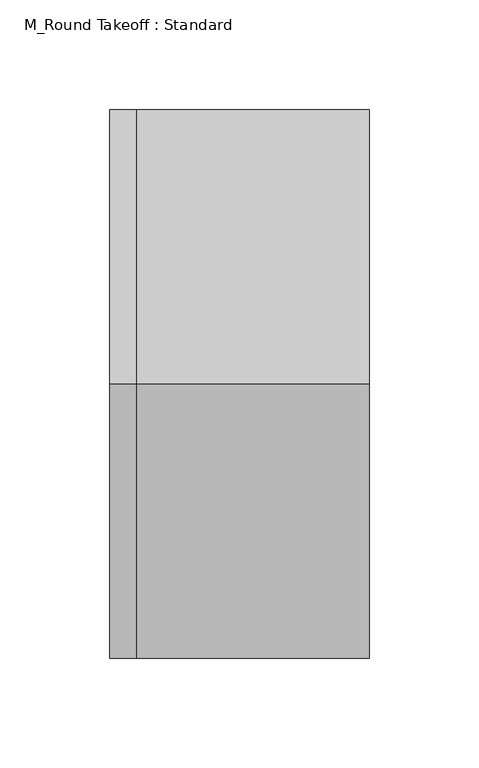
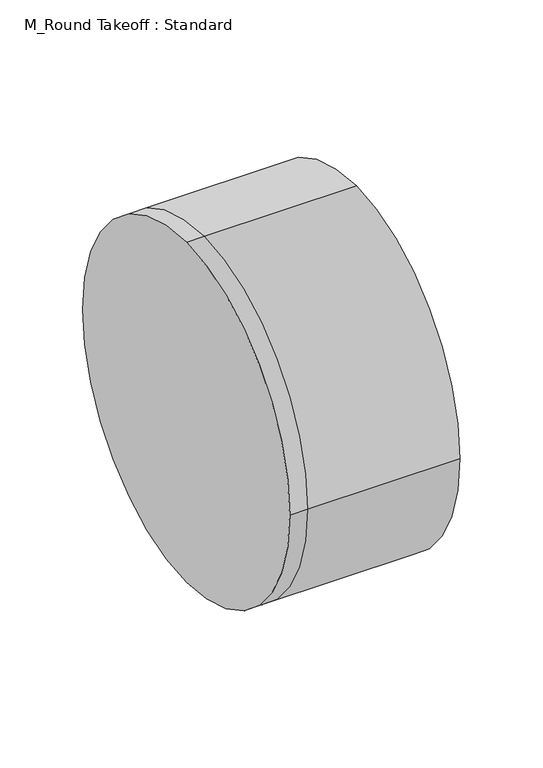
"""IFC4 building model written with IfcOpenShell, lengths in millimetres: duct fitting geometry, M_Round Takeoff : Standard."""

import ifcopenshell
import ifcopenshell.guid

model = None  # the IFC model being written
_history = None  # IfcOwnerHistory: only IFC2X3 demands one
_inside = {}  # id of a spatial element -> (the spatial element, [elements in it])
_under = {}  # id of a project, library or spatial element -> (it, [spatial elements below it])
_declared = {}  # id of a project -> (the project, [libraries it declares])
_typed = {}  # id of a type object -> (the type object, [elements of that type])
_made_of = {}  # id of a material, layer set ... -> (it, [elements and type objects made of it])


def new_model(schema):
    """Start an empty IFC model of exactly this schema.

    Asked for "IFC4X3", IfcOpenShell would pick the latest addendum, in which some entities
    have other attributes; the version numbers below select the first issue.
    IFC2X3 requires an IfcOwnerHistory on every rooted entity: one is made here for all.
    """
    global model, _history
    if schema == "IFC4X3":
        model = ifcopenshell.file(schema_version=(4, 3, 0, 0))
    else:
        model = ifcopenshell.file(schema=schema)
    _inside.clear()
    _under.clear()
    _declared.clear()
    _typed.clear()
    _made_of.clear()
    _history = None
    if model.schema == "IFC2X3":
        org = make("IfcOrganization", Name="unknown")
        user = make(
            "IfcPersonAndOrganization",
            ThePerson=make("IfcPerson", FamilyName="unknown"),
            TheOrganization=org,
        )
        app = make(
            "IfcApplication",
            ApplicationDeveloper=org,
            Version="unknown",
            ApplicationFullName="unknown",
            ApplicationIdentifier="unknown",
        )
        _history = make(
            "IfcOwnerHistory",
            OwningUser=user,
            OwningApplication=app,
            ChangeAction="ADDED",
            CreationDate=0,
        )
    return model


def make(cls, **values):
    """One entity of the class cls with the attributes given. An attribute that is None is left unset."""
    return model.create_entity(
        cls, **{name: value for name, value in values.items() if value is not None}
    )


def rooted(cls, **values):
    """An entity with a GlobalId (a new one), such as an element, a storey or a relation."""
    return make(cls, GlobalId=ifcopenshell.guid.new(), OwnerHistory=_history, **values)


def si_unit(unit_type, name, prefix=None):
    """IfcSIUnit, for example si_unit("LENGTHUNIT", "METRE", prefix="MILLI")."""
    return make("IfcSIUnit", UnitType=unit_type, Prefix=prefix, Name=name)


def assignment(units):
    """IfcUnitAssignment: the units of a project."""
    return None if units is None else make("IfcUnitAssignment", Units=units)


def point(xyz):
    """IfcCartesianPoint."""
    return None if xyz is None else make("IfcCartesianPoint", Coordinates=xyz)


def direction(xyz):
    """IfcDirection."""
    return None if xyz is None else make("IfcDirection", DirectionRatios=xyz)


def frame(location, z_axis=None, x_axis=None):
    """IfcAxis2Placement3D, a coordinate frame: its origin and axes. An axis left out is left unset."""
    return make(
        "IfcAxis2Placement3D",
        Location=point(location),
        Axis=direction(z_axis),
        RefDirection=direction(x_axis),
    )


def origin():
    """The frame at (0, 0, 0) with its axes left unset."""
    return frame((0.0, 0.0, 0.0))


def place(relative_to, where):
    """IfcLocalPlacement: puts the frame where relative to a parent placement (None: the world)."""
    return make(
        "IfcLocalPlacement", PlacementRelTo=relative_to, RelativePlacement=where
    )


def context(
    kind, dimensions, precision=None, world=None, true_north=None, identifier=None
):
    """IfcGeometricRepresentationContext, for example the 3D "Model" context."""
    return make(
        "IfcGeometricRepresentationContext",
        ContextIdentifier=identifier,
        ContextType=kind,
        CoordinateSpaceDimension=dimensions,
        Precision=precision,
        WorldCoordinateSystem=world,
        TrueNorth=true_north,
    )


def project(units=None, contexts=None):
    """IfcProject with its units and contexts."""
    return rooted(
        "IfcProject",
        Name="project",
        RepresentationContexts=contexts,
        UnitsInContext=assignment(units),
    )


def spatial(cls, under=None, at=None, **own):
    """A site, building, storey or space (cls), placed at a placement, below another one or the project."""
    s = rooted(cls, ObjectPlacement=at, **own)
    if under is not None:
        _under.setdefault(under.id(), (under, []))[1].append(s)
    return s


def circle_curve(where, radius):
    """IfcCircle in the frame where."""
    return make("IfcCircle", Position=where, Radius=radius)


def shape(context_of_items, identifier, shape_type, items):
    """IfcShapeRepresentation: the items that make up one representation, for example the "Body"."""
    return make(
        "IfcShapeRepresentation",
        ContextOfItems=context_of_items,
        RepresentationIdentifier=identifier,
        RepresentationType=shape_type,
        Items=items,
    )


def source(mapping_origin, context_of_items, identifier, shape_type, items):
    """IfcRepresentationMap: a shape defined once, which mapped items show again and again."""
    return make(
        "IfcRepresentationMap",
        MappingOrigin=mapping_origin,
        MappedRepresentation=shape(context_of_items, identifier, shape_type, items),
    )


def transform(
    local_origin,
    x_axis=None,
    y_axis=None,
    z_axis=None,
    scale=None,
    scale2=None,
    scale3=None,
    uniform=True,
):
    """IfcCartesianTransformationOperator3D, or its non-uniform kind. x_axis, y_axis, z_axis: its Axis1, 2, 3."""
    if uniform:
        return make(
            "IfcCartesianTransformationOperator3D",
            Axis1=direction(x_axis),
            Axis2=direction(y_axis),
            LocalOrigin=point(local_origin),
            Scale=scale,
            Axis3=direction(z_axis),
        )
    return make(
        "IfcCartesianTransformationOperator3DnonUniform",
        Axis1=direction(x_axis),
        Axis2=direction(y_axis),
        LocalOrigin=point(local_origin),
        Scale=scale,
        Axis3=direction(z_axis),
        Scale2=scale2,
        Scale3=scale3,
    )


def mapped(mapping_source, mapping_target):
    """IfcMappedItem: shows the shape of a source again, moved by a transform."""
    return make(
        "IfcMappedItem", MappingSource=mapping_source, MappingTarget=mapping_target
    )


def made_of(thing, what):
    """Note that an element or type object is made of a material, layer set ...; save() writes the relation."""
    if what is not None:
        _made_of.setdefault(what.id(), (what, []))[1].append(thing)
    return thing


def element(
    cls,
    number,
    at=None,
    inside=None,
    cuts=None,
    type_object=None,
    material=None,
    context=None,
    identifier="Body",
    shape_type=None,
    held_by="IfcProductDefinitionShape",
    body=None,
    shapes=None,
    **own,
):
    """One element of the class cls, such as IfcWall. Its Tag is "e" and its number.

    at: its placement. inside: the storey or other place that contains it. cuts: it is an
    opening in that element (IfcRelVoidsElement). A single representation is given by context,
    identifier, shape_type and body (its items); several are given by shapes. held_by: the class
    of the entity that holds the representations. save() writes the other relations.
    """
    e = rooted(cls, Tag="e%d" % number, ObjectPlacement=at, **own)
    if body is not None:
        shapes = [shape(context, identifier, shape_type, body)]
    if shapes is not None:
        e.Representation = make(held_by, Representations=shapes)
    if inside is not None:
        _inside.setdefault(inside.id(), (inside, []))[1].append(e)
    if cuts is not None:
        rooted(
            "IfcRelVoidsElement", RelatingBuildingElement=cuts, RelatedOpeningElement=e
        )
    if type_object is not None:
        _typed.setdefault(type_object.id(), (type_object, []))[1].append(e)
    return made_of(e, material)


def aggregate(whole, parts):
    """IfcRelAggregates: a whole, such as a stair, and the parts it consists of."""
    return rooted("IfcRelAggregates", RelatingObject=whole, RelatedObjects=parts)


def save(model, path):
    """Write the relations noted so far, then the file.

    IfcRelAggregates (storeys below a building ...), IfcRelContainedInSpatialStructure (elements
    in a storey), IfcRelDefinesByType, IfcRelAssociatesMaterial and IfcRelDeclares: one each for
    every whole, place, type object, material and project.
    """
    for whole, parts in _under.values():
        aggregate(whole, parts)
    for where, things in _inside.values():
        rooted(
            "IfcRelContainedInSpatialStructure",
            RelatedElements=things,
            RelatingStructure=where,
        )
    for kind, things in _typed.values():
        rooted("IfcRelDefinesByType", RelatedObjects=things, RelatingType=kind)
    for what, things in _made_of.values():
        rooted("IfcRelAssociatesMaterial", RelatedObjects=things, RelatingMaterial=what)
    for by, libraries in _declared.values():
        rooted("IfcRelDeclares", RelatingContext=by, RelatedDefinitions=libraries)
    model.write(path)


def plane_surface(at):
    """IfcPlane: the flat surface through the origin of the frame at, square to its z axis."""
    return make("IfcPlane", Position=at)


def cylinder_surface(at, radius):
    """IfcCylindricalSurface: all points at the distance radius from the z axis of the frame at."""
    return make("IfcCylindricalSurface", Position=at, Radius=radius)


def advanced_brep(points, edges, surfaces, faces):
    """IfcAdvancedBrep: a solid bounded by faces that lie on surfaces and meet in shared edges.

    An edge is (start, end): straight between two places in points (the first is 0);
    or (start, end, curve); or (start, end, curve, False) where it runs against its curve.
    A face is (place in surfaces, loops), or (place, loops, False) where it looks against
    its surface's normal. A loop lists edges by number (the first is 1), with a minus sign
    where the edge is run from its end to its start. The first loop is the outer one.
    """
    corners = [point(p) for p in points]
    vertices = [make("IfcVertexPoint", VertexGeometry=c) for c in corners]
    made = []
    for start, end, *more in edges:
        made.append(
            make(
                "IfcEdgeCurve",
                EdgeStart=vertices[start],
                EdgeEnd=vertices[end],
                EdgeGeometry=more[0] if more else make("IfcPolyline", Points=[corners[start], corners[end]]),
                SameSense=more[1] if len(more) > 1 else True,
            )
        )
    hull = []
    for where, loops, *sense in faces:
        bounds = []
        for j, loop in enumerate(loops):
            ring = [make("IfcOrientedEdge", EdgeElement=made[abs(k) - 1], Orientation=k > 0) for k in loop]
            bounds.append(
                make(
                    "IfcFaceOuterBound" if j == 0 else "IfcFaceBound",
                    Bound=make("IfcEdgeLoop", EdgeList=ring),
                    Orientation=True,
                )
            )
        hull.append(make("IfcAdvancedFace", Bounds=bounds, FaceSurface=surfaces[where], SameSense=sense[0] if sense else True))
    return make("IfcAdvancedBrep", Outer=make("IfcClosedShell", CfsFaces=hull))


def m_round_takeoff_standard_24c67b50(model_context):
    return source(origin(), model_context, "Body", "AdvancedBrep", [
        advanced_brep(
        [(-12.1645431, 0.0, 125.0), (-12.1645431, 125.0, 0.0), (-12.1645431, 0.0, -125.0), (-12.1645431, -125.0, 0.0), (0.0, 0.0, 125.0), (0.0, 125.0, 0.0), (0.0, 0.0, -125.0), (0.0, -125.0, 0.0), (106.0685431, 0.0, 125.0), (106.0685431, -125.0, 0.0), (106.0685431, 0.0, -125.0), (106.0685431, 125.0, 0.0)],
        [
            (0, 1, circle_curve(frame((-12.1645431, 0.0, 0.0), z_axis=(-1.0, 0.0, 0.0), x_axis=(0.0, 1.0, 0.0)), 125.0)),
            (1, 2, circle_curve(frame((-12.1645431, 0.0, 0.0), z_axis=(-1.0, 0.0, 0.0), x_axis=(0.0, 1.0, 0.0)), 125.0)),
            (2, 3, circle_curve(frame((-12.1645431, 0.0, 0.0), z_axis=(-1.0, 0.0, 0.0), x_axis=(0.0, 1.0, 0.0)), 125.0)),
            (3, 0, circle_curve(frame((-12.1645431, 0.0, 0.0), z_axis=(-1.0, 0.0, 0.0), x_axis=(0.0, 1.0, 0.0)), 125.0)),
            (0, 4),
            (4, 5, circle_curve(frame((0.0, 0.0, 0.0), z_axis=(-1.0, 0.0, 0.0), x_axis=(0.0, 1.0, 0.0)), 125.0)),
            (5, 1),
            (5, 6, circle_curve(frame((0.0, 0.0, 0.0), z_axis=(-1.0, 0.0, 0.0), x_axis=(0.0, 1.0, 0.0)), 125.0)),
            (6, 2),
            (6, 7, circle_curve(frame((0.0, 0.0, 0.0), z_axis=(-1.0, 0.0, 0.0), x_axis=(0.0, 1.0, 0.0)), 125.0)),
            (7, 3),
            (7, 4, circle_curve(frame((0.0, 0.0, 0.0), z_axis=(-1.0, 0.0, 0.0), x_axis=(0.0, 1.0, 0.0)), 125.0)),
            (8, 9, circle_curve(frame((106.0685431, 0.0, 0.0), z_axis=(1.0, 0.0, 0.0), x_axis=(0.0, 1.0, 0.0)), 125.0)),
            (9, 10, circle_curve(frame((106.0685431, 0.0, 0.0), z_axis=(1.0, 0.0, 0.0), x_axis=(0.0, 1.0, 0.0)), 125.0)),
            (10, 11, circle_curve(frame((106.0685431, 0.0, 0.0), z_axis=(1.0, 0.0, 0.0), x_axis=(0.0, 1.0, 0.0)), 125.0)),
            (11, 8, circle_curve(frame((106.0685431, 0.0, 0.0), z_axis=(1.0, 0.0, 0.0), x_axis=(0.0, 1.0, 0.0)), 125.0)),
            (11, 5),
            (4, 8),
            (10, 6),
            (9, 7),
        ],
        [
            plane_surface(frame((-12.1645431, 0.0, 0.0), z_axis=(-1.0, 0.0, 0.0), x_axis=(0.0, 0.0, 1.0))),
            cylinder_surface(frame((-12.1645431, 0.0, 0.0), z_axis=(-1.0, 0.0, 0.0), x_axis=(0.0, 1.0, 0.0)), 125.0),
            plane_surface(frame((106.0685431, 0.0, 0.0), z_axis=(1.0, 0.0, 0.0), x_axis=(0.0, 0.0, 1.0))),
            cylinder_surface(frame((0.0, 0.0, 0.0), z_axis=(-1.0, 0.0, 0.0), x_axis=(0.0, 1.0, 0.0)), 125.0),
        ],
        [
            (0, [[1, 2, 3, 4]]),
            (1, [[-1, 5, 6, 7]]),
            (1, [[-2, -7, 8, 9]]),
            (1, [[-3, -9, 10, 11]]),
            (1, [[-4, -11, 12, -5]]),
            (2, [[13, 14, 15, 16]]),
            (3, [[-16, 17, -6, 18]]),
            (3, [[-15, 19, -8, -17]]),
            (3, [[-14, 20, -10, -19]]),
            (3, [[-13, -18, -12, -20]]),
        ],
    ),
        advanced_brep(
        [(106.0685431, 0.0, 125.0), (106.0685431, -125.0, 0.0), (106.0685431, 0.0, -125.0), (106.0685431, 125.0, 0.0), (0.0, 125.0, 0.0), (0.0, 0.0, 125.0), (0.0, 0.0, -125.0), (0.0, -125.0, 0.0), (-12.1645431, 0.0, 125.0), (-12.1645431, 125.0, 0.0), (-12.1645431, 0.0, -125.0), (-12.1645431, -125.0, 0.0)],
        [
            (0, 1, circle_curve(frame((106.0685431, 0.0, 0.0), z_axis=(1.0, 0.0, 0.0), x_axis=(0.0, 1.0, 0.0)), 125.0)),
            (1, 2, circle_curve(frame((106.0685431, 0.0, 0.0), z_axis=(1.0, 0.0, 0.0), x_axis=(0.0, 1.0, 0.0)), 125.0)),
            (2, 3, circle_curve(frame((106.0685431, 0.0, 0.0), z_axis=(1.0, 0.0, 0.0), x_axis=(0.0, 1.0, 0.0)), 125.0)),
            (3, 0, circle_curve(frame((106.0685431, 0.0, 0.0), z_axis=(1.0, 0.0, 0.0), x_axis=(0.0, 1.0, 0.0)), 125.0)),
            (3, 4),
            (4, 5, circle_curve(frame((0.0, 0.0, 0.0), z_axis=(1.0, 0.0, 0.0), x_axis=(0.0, 1.0, 0.0)), 125.0)),
            (5, 0),
            (2, 6),
            (6, 4, circle_curve(frame((0.0, 0.0, 0.0), z_axis=(1.0, 0.0, 0.0), x_axis=(0.0, 1.0, 0.0)), 125.0)),
            (1, 7),
            (7, 6, circle_curve(frame((0.0, 0.0, 0.0), z_axis=(1.0, 0.0, 0.0), x_axis=(0.0, 1.0, 0.0)), 125.0)),
            (5, 7, circle_curve(frame((0.0, 0.0, 0.0), z_axis=(1.0, 0.0, 0.0), x_axis=(0.0, 1.0, 0.0)), 125.0)),
            (8, 9, circle_curve(frame((-12.1645431, 0.0, 0.0), z_axis=(-1.0, 0.0, 0.0), x_axis=(0.0, 1.0, 0.0)), 125.0)),
            (9, 10, circle_curve(frame((-12.1645431, 0.0, 0.0), z_axis=(-1.0, 0.0, 0.0), x_axis=(0.0, 1.0, 0.0)), 125.0)),
            (10, 11, circle_curve(frame((-12.1645431, 0.0, 0.0), z_axis=(-1.0, 0.0, 0.0), x_axis=(0.0, 1.0, 0.0)), 125.0)),
            (11, 8, circle_curve(frame((-12.1645431, 0.0, 0.0), z_axis=(-1.0, 0.0, 0.0), x_axis=(0.0, 1.0, 0.0)), 125.0)),
            (8, 5),
            (4, 9),
            (6, 10),
            (7, 11),
        ],
        [
            plane_surface(frame((106.0685431, 0.0, 0.0), z_axis=(1.0, 0.0, 0.0), x_axis=(0.0, 0.0, 1.0))),
            cylinder_surface(frame((0.0, 0.0, 0.0), z_axis=(-1.0, 0.0, 0.0), x_axis=(0.0, 1.0, 0.0)), 125.0),
            plane_surface(frame((-12.1645431, 0.0, 0.0), z_axis=(-1.0, 0.0, 0.0), x_axis=(0.0, 0.0, 1.0))),
            cylinder_surface(frame((-12.1645431, 0.0, 0.0), z_axis=(-1.0, 0.0, 0.0), x_axis=(0.0, 1.0, 0.0)), 125.0),
        ],
        [
            (0, [[1, 2, 3, 4]]),
            (1, [[-4, 5, 6, 7]]),
            (1, [[-3, 8, 9, -5]]),
            (1, [[-2, 10, 11, -8]]),
            (1, [[-1, -7, 12, -10]]),
            (2, [[13, 14, 15, 16]]),
            (3, [[-13, 17, -6, 18]]),
            (3, [[-14, -18, -9, 19]]),
            (3, [[-15, -19, -11, 20]]),
            (3, [[-16, -20, -12, -17]]),
        ],
    ),
        advanced_brep(
        [(-12.1645431, 0.0, 125.0), (-12.1645431, 125.0, 0.0), (-12.1645431, 0.0, -125.0), (-12.1645431, -125.0, 0.0), (0.0, 0.0, 125.0), (0.0, 125.0, 0.0), (0.0, 0.0, -125.0), (0.0, -125.0, 0.0), (106.0685431, 0.0, 125.0), (106.0685431, -125.0, 0.0), (106.0685431, 0.0, -125.0), (106.0685431, 125.0, 0.0)],
        [
            (0, 1, circle_curve(frame((-12.1645431, 0.0, 0.0), z_axis=(-1.0, 0.0, 0.0), x_axis=(0.0, 1.0, 0.0)), 125.0)),
            (1, 2, circle_curve(frame((-12.1645431, 0.0, 0.0), z_axis=(-1.0, 0.0, 0.0), x_axis=(0.0, 1.0, 0.0)), 125.0)),
            (2, 3, circle_curve(frame((-12.1645431, 0.0, 0.0), z_axis=(-1.0, 0.0, 0.0), x_axis=(0.0, 1.0, 0.0)), 125.0)),
            (3, 0, circle_curve(frame((-12.1645431, 0.0, 0.0), z_axis=(-1.0, 0.0, 0.0), x_axis=(0.0, 1.0, 0.0)), 125.0)),
            (0, 4),
            (4, 5, circle_curve(frame((0.0, 0.0, 0.0), z_axis=(-1.0, 0.0, 0.0), x_axis=(0.0, 1.0, 0.0)), 125.0)),
            (5, 1),
            (5, 6, circle_curve(frame((0.0, 0.0, 0.0), z_axis=(-1.0, 0.0, 0.0), x_axis=(0.0, 1.0, 0.0)), 125.0)),
            (6, 2),
            (6, 7, circle_curve(frame((0.0, 0.0, 0.0), z_axis=(-1.0, 0.0, 0.0), x_axis=(0.0, 1.0, 0.0)), 125.0)),
            (7, 3),
            (7, 4, circle_curve(frame((0.0, 0.0, 0.0), z_axis=(-1.0, 0.0, 0.0), x_axis=(0.0, 1.0, 0.0)), 125.0)),
            (8, 9, circle_curve(frame((106.0685431, 0.0, 0.0), z_axis=(1.0, 0.0, 0.0), x_axis=(0.0, 1.0, 0.0)), 125.0)),
            (9, 10, circle_curve(frame((106.0685431, 0.0, 0.0), z_axis=(1.0, 0.0, 0.0), x_axis=(0.0, 1.0, 0.0)), 125.0)),
            (10, 11, circle_curve(frame((106.0685431, 0.0, 0.0), z_axis=(1.0, 0.0, 0.0), x_axis=(0.0, 1.0, 0.0)), 125.0)),
            (11, 8, circle_curve(frame((106.0685431, 0.0, 0.0), z_axis=(1.0, 0.0, 0.0), x_axis=(0.0, 1.0, 0.0)), 125.0)),
            (11, 5),
            (4, 8),
            (10, 6),
            (9, 7),
        ],
        [
            plane_surface(frame((-12.1645431, 0.0, 0.0), z_axis=(-1.0, 0.0, 0.0), x_axis=(0.0, 0.0, 1.0))),
            cylinder_surface(frame((-12.1645431, 0.0, 0.0), z_axis=(-1.0, 0.0, 0.0), x_axis=(0.0, 1.0, 0.0)), 125.0),
            plane_surface(frame((106.0685431, 0.0, 0.0), z_axis=(1.0, 0.0, 0.0), x_axis=(0.0, 0.0, 1.0))),
            cylinder_surface(frame((0.0, 0.0, 0.0), z_axis=(-1.0, 0.0, 0.0), x_axis=(0.0, 1.0, 0.0)), 125.0),
        ],
        [
            (0, [[1, 2, 3, 4]]),
            (1, [[-1, 5, 6, 7]]),
            (1, [[-2, -7, 8, 9]]),
            (1, [[-3, -9, 10, 11]]),
            (1, [[-4, -11, 12, -5]]),
            (2, [[13, 14, 15, 16]]),
            (3, [[-16, 17, -6, 18]]),
            (3, [[-15, 19, -8, -17]]),
            (3, [[-14, 20, -10, -19]]),
            (3, [[-13, -18, -12, -20]]),
        ],
    ),
    ])


if __name__ == "__main__":
    model = new_model("IFC4")
    model_context = context("Model", 3, world=origin())
    ifc_project = project(units=[si_unit("LENGTHUNIT", "METRE", prefix="MILLI")], contexts=[model_context])
    site = spatial("IfcSite", under=ifc_project)
    building = spatial("IfcBuilding", under=site)
    placement = place(None, origin())
    m_round_takeoff_standard_shape = m_round_takeoff_standard_24c67b50(model_context)
    element("IfcDuctFitting", 1, ObjectType="M_Round Takeoff : Standard", at=placement, inside=building, context=model_context, shape_type="MappedRepresentation", body=[
        mapped(m_round_takeoff_standard_shape, transform((0.0, 0.0, 0.0), x_axis=(1.0, 0.0, 0.0), y_axis=(0.0, 1.0, 0.0), z_axis=(0.0, 0.0, 1.0))),
    ])
    save(model, "model.ifc")
